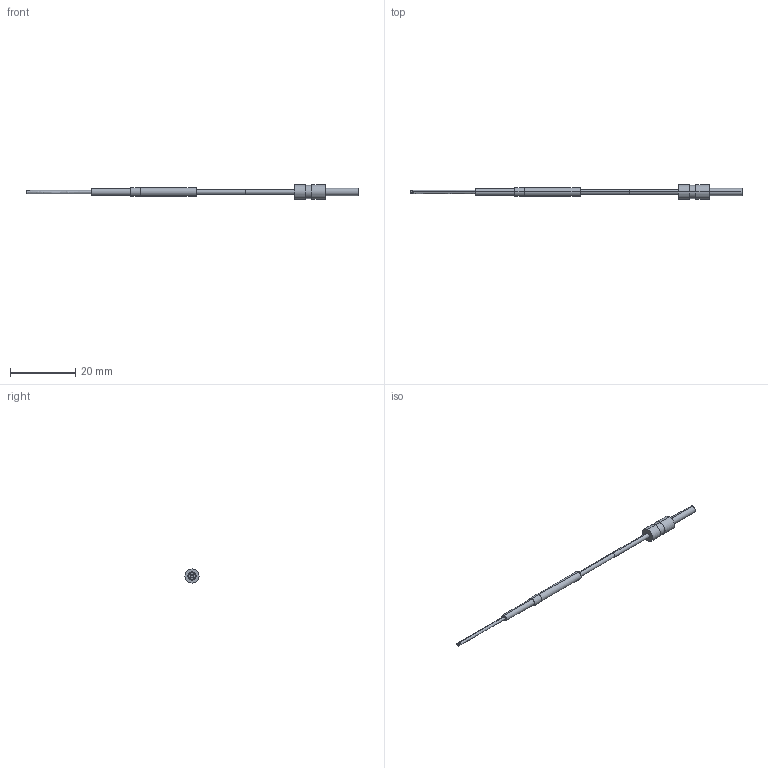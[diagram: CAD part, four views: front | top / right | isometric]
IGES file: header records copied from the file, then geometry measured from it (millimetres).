
Start section: SolidWorks IGES FILE using analytic representation for surfaces
Global section: file name: \\Intra-srv04\開発データ\CAD_Data\CAD委員会\3D電子ｶﾀﾛｸﾞ\製品カタログ（新）\0_IGES\FT-V22.IGS,41HSolidWorks 2004; native system: by SolidWorks Corporation; preprocessor: Version 5.3; author: YK0651; date: 050909.001951; units: millimetre
Bounding box: 101.5 x 4.3 x 4.3 mm (x, y, z)
Volume: 377.8 mm3; surface area: 677 mm2
Topology: 2 solids, 2 shells, 35 faces, 67 edges, 44 vertices
Faces by surface type: revolution 22, plane 13
